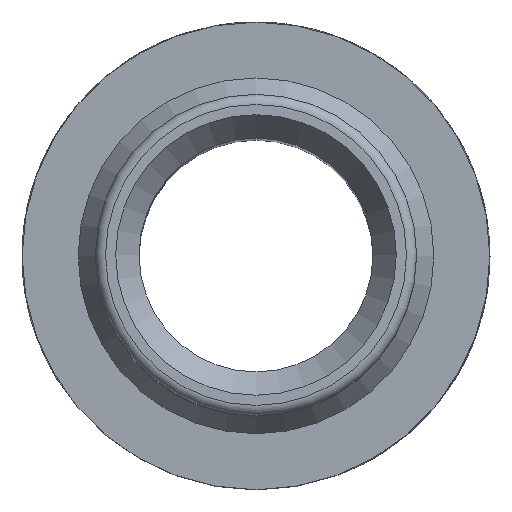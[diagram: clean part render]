
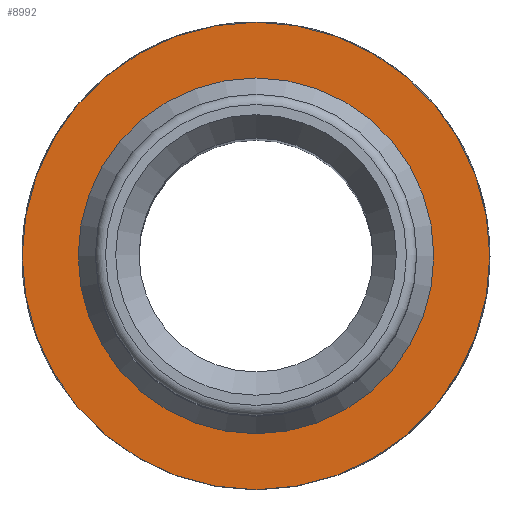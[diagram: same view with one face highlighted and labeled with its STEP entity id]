
A CAD part, top view. The second image highlights one B-rep face of the part: STEP entity #8992.
In plain terms, the highlighted planar face has unit normal (0, 0, 1).
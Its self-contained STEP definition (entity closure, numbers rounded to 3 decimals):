
#81=FACE_BOUND('',#2460,.T.);
#183=PLANE('',#9388);
#1922=FACE_OUTER_BOUND('',#2459,.T.);
#2459=EDGE_LOOP('',(#8226,#8227));
#2460=EDGE_LOOP('',(#8228,#8229));
#2616=CIRCLE('',#9260,11.5);
#2617=CIRCLE('',#9261,11.5);
#2700=CIRCLE('',#9386,8.3);
#2701=CIRCLE('',#9387,8.3);
#4176=VERTEX_POINT('',#20943);
#4177=VERTEX_POINT('',#20945);
#4255=VERTEX_POINT('',#21168);
#4256=VERTEX_POINT('',#21169);
#5497=EDGE_CURVE('',#4176,#4177,#2616,.T.);
#5498=EDGE_CURVE('',#4177,#4176,#2617,.T.);
#5600=EDGE_CURVE('',#4255,#4256,#2700,.T.);
#5601=EDGE_CURVE('',#4256,#4255,#2701,.T.);
#8226=ORIENTED_EDGE('',*,*,#5498,.F.);
#8227=ORIENTED_EDGE('',*,*,#5497,.F.);
#8228=ORIENTED_EDGE('',*,*,#5600,.T.);
#8229=ORIENTED_EDGE('',*,*,#5601,.T.);
#8992=ADVANCED_FACE('',(#1922,#81),#183,.T.);
#9260=AXIS2_PLACEMENT_3D('',#20946,#10371,#10372);
#9261=AXIS2_PLACEMENT_3D('',#20947,#10373,#10374);
#9386=AXIS2_PLACEMENT_3D('',#21170,#10642,#10643);
#9387=AXIS2_PLACEMENT_3D('',#21171,#10644,#10645);
#9388=AXIS2_PLACEMENT_3D('',#21173,#10647,#10648);
#10371=DIRECTION('center_axis',(0.,0.,-1.));
#10372=DIRECTION('ref_axis',(1.,0.,0.));
#10373=DIRECTION('center_axis',(0.,0.,-1.));
#10374=DIRECTION('ref_axis',(1.,0.,0.));
#10642=DIRECTION('center_axis',(0.,0.,-1.));
#10643=DIRECTION('ref_axis',(1.,0.,0.));
#10644=DIRECTION('center_axis',(0.,0.,-1.));
#10645=DIRECTION('ref_axis',(1.,0.,0.));
#10647=DIRECTION('center_axis',(0.,0.,1.));
#10648=DIRECTION('ref_axis',(1.,0.,0.));
#20943=CARTESIAN_POINT('',(0.,-11.5,34.748));
#20945=CARTESIAN_POINT('',(0.,11.5,34.748));
#20946=CARTESIAN_POINT('Origin',(0.,0.,34.748));
#20947=CARTESIAN_POINT('Origin',(0.,0.,34.748));
#21168=CARTESIAN_POINT('',(0.,8.3,34.748));
#21169=CARTESIAN_POINT('',(0.,-8.3,34.748));
#21170=CARTESIAN_POINT('Origin',(0.,0.,34.748));
#21171=CARTESIAN_POINT('Origin',(0.,0.,34.748));
#21173=CARTESIAN_POINT('Origin',(0.,11.5,34.748));
